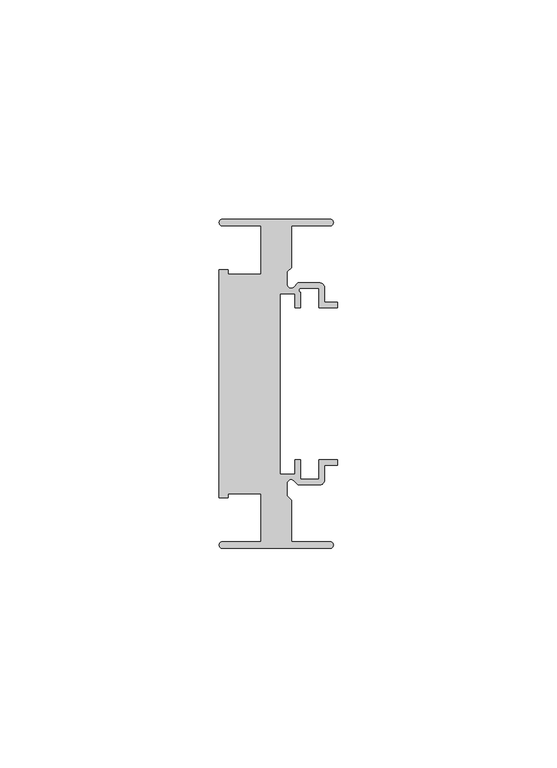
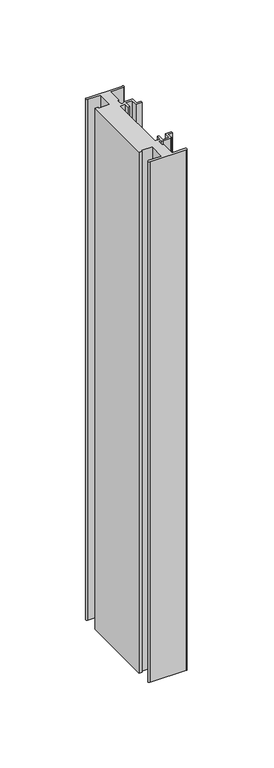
"""IFC4 building model written with IfcOpenShell, lengths in millimetres: member geometry, Прямоугольный импост : 7-AMG-2-Профиль 26Х75 Низ Л."""

from ifc_helpers import new_model, si_unit, point, frame, frame_2d, origin, place, context, project, spatial, polyline, circle_curve, trimmed, segment, composite_curve, outline, extrude, source, transform, mapped, element, save


def member_b31118c8(model_context):
    return source(origin(), model_context, "Body", "SweptSolid", [
        extrude(outline(composite_curve([segment(polyline([(-1.7, -37.5), (-26.25, -37.5)]), True, "CONTINUOUS"), segment(trimmed(circle_curve(frame_2d((-26.25, -36.75)), 0.75), [point((-26.25, -37.5))], [point((-26.25, -36.0))], False, "CARTESIAN"), True, "CONTINUOUS"), segment(polyline([(-26.25, -36.0), (-17.5, -36.0), (-17.5, -25.0), (-24.9359877, -25.0), (-24.9359877, -26.0), (-27.0, -26.0), (-27.0, 26.0), (-24.9359877, 26.0), (-24.9359877, 25.0), (-17.5, 25.0), (-17.5, 36.0), (-26.25, 36.0)]), True, "CONTINUOUS"), segment(trimmed(circle_curve(frame_2d((-26.25, 36.75)), 0.75), [point((-26.25, 36.0))], [point((-26.25, 37.5))], False, "CARTESIAN"), True, "CONTINUOUS"), segment(polyline([(-26.25, 37.5), (-1.7, 37.5)]), True, "CONTINUOUS"), segment(trimmed(circle_curve(frame_2d((-1.7, 36.75)), 0.75), [point((-1.7, 37.5))], [point((-1.7, 36.0))], False, "CARTESIAN"), True, "CONTINUOUS"), segment(polyline([(-1.7, 36.0), (-10.5, 36.0), (-10.5, 26.5029437), (-11.5, 25.5029437), (-11.5, 22.6727922)]), True, "CONTINUOUS"), segment(trimmed(circle_curve(frame_2d((-10.6, 22.6727922)), 0.9), [point((-11.5, 22.6727922))], [point((-9.9636039, 22.0363961))], True, "CARTESIAN"), True, "CONTINUOUS"), segment(polyline([(-9.9636039, 22.0363961), (-9.0, 23.0), (-4.0, 23.0)]), True, "CONTINUOUS"), segment(trimmed(circle_curve(frame_2d((-4.0, 22.0)), 1.0), [point((-4.0, 23.0))], [point((-3.0, 22.0))], False, "CARTESIAN"), True, "CONTINUOUS"), segment(polyline([(-3.0, 22.0), (-3.0, 18.55), (0.0, 18.55), (0.0, 17.35), (-4.2, 17.35), (-4.2, 21.8), (-8.5029437, 21.8)]), True, "CONTINUOUS"), segment(trimmed(circle_curve(frame_2d((-8.3343131, 21.3314262)), 0.4979937), [point((-8.5029437, 21.8))], [point((-8.45, 20.8470563))], True, "CARTESIAN"), True, "CONTINUOUS"), segment(polyline([(-8.45, 20.8470563), (-8.45, 17.35), (-9.65, 17.35), (-9.65, 20.55), (-13.15, 20.55), (-13.15, -20.55), (-9.65, -20.55), (-9.65, -17.35), (-8.45, -17.35), (-8.45, -21.8), (-4.2, -21.8), (-4.2, -17.35), (0.0, -17.35), (0.0, -18.55), (-3.0, -18.55), (-3.0, -22.0)]), True, "CONTINUOUS"), segment(trimmed(circle_curve(frame_2d((-4.0, -22.0)), 1.0), [point((-3.0, -22.0))], [point((-4.0, -23.0))], False, "CARTESIAN"), True, "CONTINUOUS"), segment(polyline([(-4.0, -23.0), (-9.0, -23.0), (-9.9636039, -22.0363961)]), True, "CONTINUOUS"), segment(trimmed(circle_curve(frame_2d((-10.6, -22.6727922)), 0.9), [point((-9.9636039, -22.0363961))], [point((-11.5, -22.6727922))], True, "CARTESIAN"), True, "CONTINUOUS"), segment(polyline([(-11.5, -22.6727922), (-11.5, -25.5029437), (-10.5, -26.5029437), (-10.5, -36.0), (-1.7, -36.0)]), True, "CONTINUOUS"), segment(trimmed(circle_curve(frame_2d((-1.7, -36.75)), 0.75), [point((-1.7, -36.0))], [point((-1.7, -37.5))], False, "CARTESIAN"), True, "CONTINUOUS")], self_intersect=False)), frame((0.0, 0.0, -373.0), z_axis=(0.0, 0.0, 1.0), x_axis=(1.0, 0.0, 0.0)), (0.0, 0.0, 1.0), 373.0),
    ])


if __name__ == "__main__":
    model = new_model("IFC4")
    model_context = context("Model", 3, world=origin())
    ifc_project = project(units=[si_unit("LENGTHUNIT", "METRE", prefix="MILLI")], contexts=[model_context])
    site = spatial("IfcSite", under=ifc_project)
    building = spatial("IfcBuilding", under=site)
    placement = place(None, origin())
    member_shape = member_b31118c8(model_context)
    element("IfcMember", 1, ObjectType="Прямоугольный импост : 7-AMG-2-Профиль 26Х75 Низ Л", at=placement, inside=building, context=model_context, shape_type="MappedRepresentation", body=[
        mapped(member_shape, transform((0.0, 0.0, 0.0), x_axis=(1.0, 0.0, 0.0), y_axis=(0.0, 1.0, 0.0), z_axis=(0.0, 0.0, 1.0))),
    ])
    save(model, "model.ifc")
